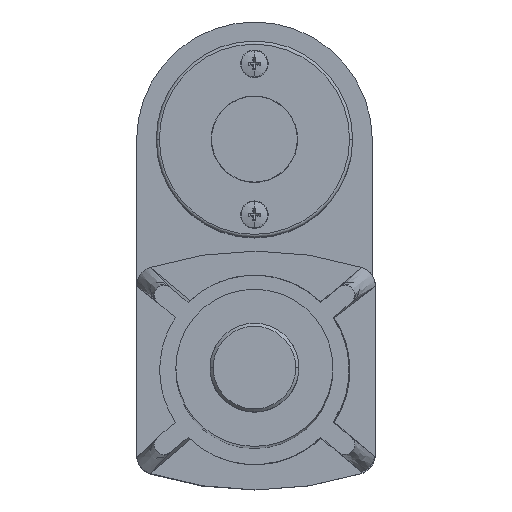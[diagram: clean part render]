
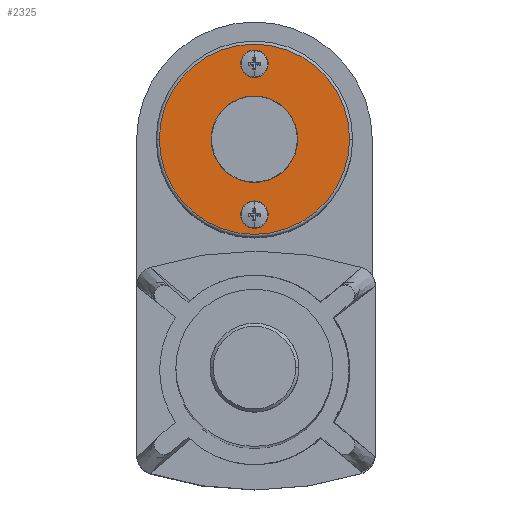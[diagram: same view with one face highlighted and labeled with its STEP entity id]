
A CAD part, top view. The second image highlights one B-rep face of the part: STEP entity #2325.
In plain terms, the highlighted planar face has unit normal (0, 0, 1).
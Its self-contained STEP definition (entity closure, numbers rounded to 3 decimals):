
#216 = CIRCLE ( 'NONE', #9420, 2.54 ) ;
#299 = CIRCLE ( 'NONE', #332, 2.54 ) ;
#332 = AXIS2_PLACEMENT_3D ( 'NONE', #9249, #2399, #6664 ) ;
#491 = CIRCLE ( 'NONE', #4987, 30.75 ) ;
#863 = DIRECTION ( 'NONE',  ( -1., 0., 0. ) ) ;
#1703 = VERTEX_POINT ( 'NONE', #1829 ) ;
#1816 = EDGE_CURVE ( 'NONE', #1703, #3406, #491, .T. ) ;
#1829 = CARTESIAN_POINT ( 'NONE',  ( 7.858, -31.638, 406.098 ) ) ;
#1935 = AXIS2_PLACEMENT_3D ( 'NONE', #8180, #3851, #10570 ) ;
#2132 = ORIENTED_EDGE ( 'NONE', *, *, #2331, .F. ) ;
#2325 = ADVANCED_FACE ( 'NONE', ( #8201, #3736, #3997 ), #7380, .T. ) ;
#2331 = EDGE_CURVE ( 'NONE', #9337, #7248, #216, .T. ) ;
#2399 = DIRECTION ( 'NONE',  ( 0., 0., 1. ) ) ;
#2567 = DIRECTION ( 'NONE',  ( -1., 0., 0. ) ) ;
#2588 = DIRECTION ( 'NONE',  ( 0., 0., 1. ) ) ;
#3230 = EDGE_CURVE ( 'NONE', #3406, #1703, #7013, .T. ) ;
#3406 = VERTEX_POINT ( 'NONE', #8660 ) ;
#3425 = CARTESIAN_POINT ( 'NONE',  ( 38.608, -56.038, 406.098 ) ) ;
#3625 = ORIENTED_EDGE ( 'NONE', *, *, #1816, .T. ) ;
#3736 = FACE_BOUND ( 'NONE', #3817, .T. ) ;
#3817 = EDGE_LOOP ( 'NONE', ( #8557, #2132 ) ) ;
#3851 = DIRECTION ( 'NONE',  ( 0., 0., 1. ) ) ;
#3997 = FACE_OUTER_BOUND ( 'NONE', #4090, .T. ) ;
#4040 = DIRECTION ( 'NONE',  ( 0., 0., 1. ) ) ;
#4090 = EDGE_LOOP ( 'NONE', ( #3625, #4494 ) ) ;
#4123 = AXIS2_PLACEMENT_3D ( 'NONE', #3425, #6628, #8287 ) ;
#4424 = EDGE_LOOP ( 'NONE', ( #9443, #8752 ) ) ;
#4494 = ORIENTED_EDGE ( 'NONE', *, *, #3230, .T. ) ;
#4604 = DIRECTION ( 'NONE',  ( -1., 0., 0. ) ) ;
#4987 = AXIS2_PLACEMENT_3D ( 'NONE', #9552, #9631, #4604 ) ;
#5063 = DIRECTION ( 'NONE',  ( -1., 0., 0. ) ) ;
#5185 = CARTESIAN_POINT ( 'NONE',  ( 41.148, -7.238, 406.098 ) ) ;
#5337 = AXIS2_PLACEMENT_3D ( 'NONE', #9077, #4040, #2567 ) ;
#5735 = CIRCLE ( 'NONE', #4123, 2.54 ) ;
#5755 = DIRECTION ( 'NONE',  ( 0., 0., 1. ) ) ;
#5893 = EDGE_CURVE ( 'NONE', #7248, #9337, #299, .T. ) ;
#6512 = EDGE_CURVE ( 'NONE', #9935, #6646, #5735, .T. ) ;
#6628 = DIRECTION ( 'NONE',  ( 0., 0., 1. ) ) ;
#6646 = VERTEX_POINT ( 'NONE', #6666 ) ;
#6664 = DIRECTION ( 'NONE',  ( -1., 0., 0. ) ) ;
#6666 = CARTESIAN_POINT ( 'NONE',  ( 41.148, -56.038, 406.098 ) ) ;
#6949 = CARTESIAN_POINT ( 'NONE',  ( 36.068, -7.238, 406.098 ) ) ;
#7013 = CIRCLE ( 'NONE', #5337, 30.75 ) ;
#7042 = CIRCLE ( 'NONE', #1935, 2.54 ) ;
#7248 = VERTEX_POINT ( 'NONE', #6949 ) ;
#7380 = PLANE ( 'NONE',  #8220 ) ;
#7575 = EDGE_CURVE ( 'NONE', #6646, #9935, #7042, .T. ) ;
#8180 = CARTESIAN_POINT ( 'NONE',  ( 38.608, -56.038, 406.098 ) ) ;
#8201 = FACE_BOUND ( 'NONE', #4424, .T. ) ;
#8220 = AXIS2_PLACEMENT_3D ( 'NONE', #9951, #5755, #5063 ) ;
#8287 = DIRECTION ( 'NONE',  ( -1., 0., 0. ) ) ;
#8443 = CARTESIAN_POINT ( 'NONE',  ( 38.608, -7.238, 406.098 ) ) ;
#8557 = ORIENTED_EDGE ( 'NONE', *, *, #5893, .F. ) ;
#8660 = CARTESIAN_POINT ( 'NONE',  ( 69.358, -31.638, 406.098 ) ) ;
#8752 = ORIENTED_EDGE ( 'NONE', *, *, #7575, .F. ) ;
#9077 = CARTESIAN_POINT ( 'NONE',  ( 38.608, -31.638, 406.098 ) ) ;
#9249 = CARTESIAN_POINT ( 'NONE',  ( 38.608, -7.238, 406.098 ) ) ;
#9337 = VERTEX_POINT ( 'NONE', #5185 ) ;
#9420 = AXIS2_PLACEMENT_3D ( 'NONE', #8443, #2588, #863 ) ;
#9443 = ORIENTED_EDGE ( 'NONE', *, *, #6512, .F. ) ;
#9552 = CARTESIAN_POINT ( 'NONE',  ( 38.608, -31.638, 406.098 ) ) ;
#9631 = DIRECTION ( 'NONE',  ( 0., 0., 1. ) ) ;
#9935 = VERTEX_POINT ( 'NONE', #10292 ) ;
#9951 = CARTESIAN_POINT ( 'NONE',  ( 38.608, -31.638, 406.098 ) ) ;
#10292 = CARTESIAN_POINT ( 'NONE',  ( 36.068, -56.038, 406.098 ) ) ;
#10570 = DIRECTION ( 'NONE',  ( -1., 0., 0. ) ) ;
